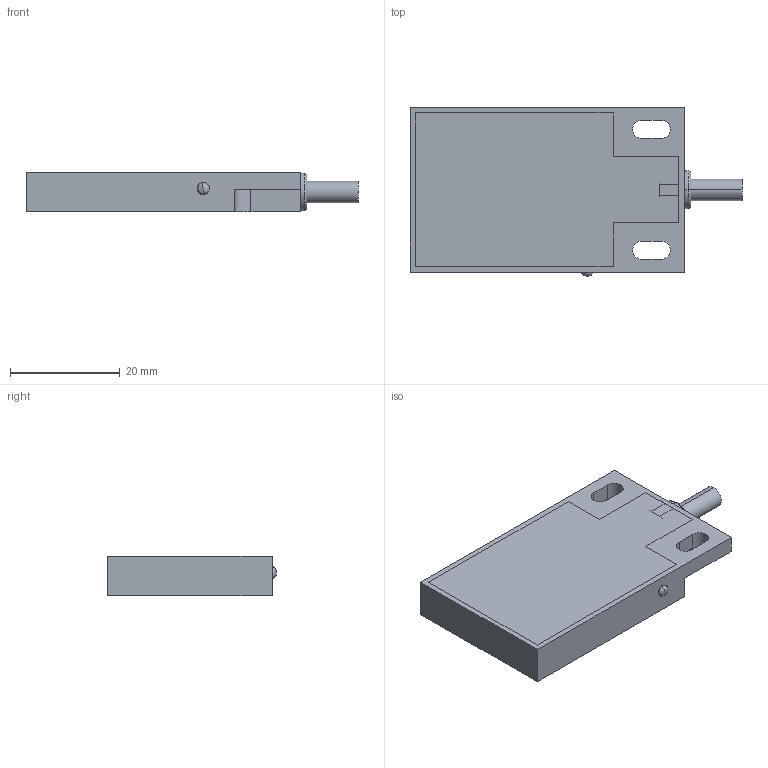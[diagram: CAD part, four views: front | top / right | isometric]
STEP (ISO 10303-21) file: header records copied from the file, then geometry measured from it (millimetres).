
FILE_DESCRIPTION (( 'STEP AP203' ), '1' );
FILE_NAME ('CS07P-B.STEP', '2025-09-04T08:18:36', ( '' ), ( '' ), 'SwSTEP 2.0', 'SolidWorks 2023', '' );
FILE_SCHEMA (( 'CONFIG_CONTROL_DESIGN' ));
Length unit declared in the file: millimetre
Products named in the file (6): SD2018002-CS系列导光柱-B0; CS07P-B; SD1600249-3.9 （三芯黑）PVC 耐油导线; SD2008573-CS07方壳（打孔后）-B0; SD1901000-黑色树脂; SD2011072-CS07导线密封套-B0
Assembly tree (5 placements, depth 2):
  CS07P-B
    SD2008573-CS07方壳（打孔后）-B0
    SD2018002-CS系列导光柱-B0
    SD2011072-CS07导线密封套-B0
    SD1600249-3.9 （三芯黑）PVC 耐油导线
    SD1901000-黑色树脂
Bounding box: 60.5 x 30.8 x 7.2 mm (x, y, z)
Volume: 10226.4 mm3; surface area: 8926.9 mm2
Topology: 5 solids, 5 shells, 141 faces, 345 edges, 225 vertices
Faces by surface type: plane 77, cylinder 43, cone 17, bspline 2, torus 2
Entity records: 5330 total; most frequent: CARTESIAN_POINT 1277, DIRECTION 744, ORIENTED_EDGE 690, EDGE_CURVE 345, AXIS2_PLACEMENT_3D 266, VERTEX_POINT 225, LINE 212, VECTOR 212
